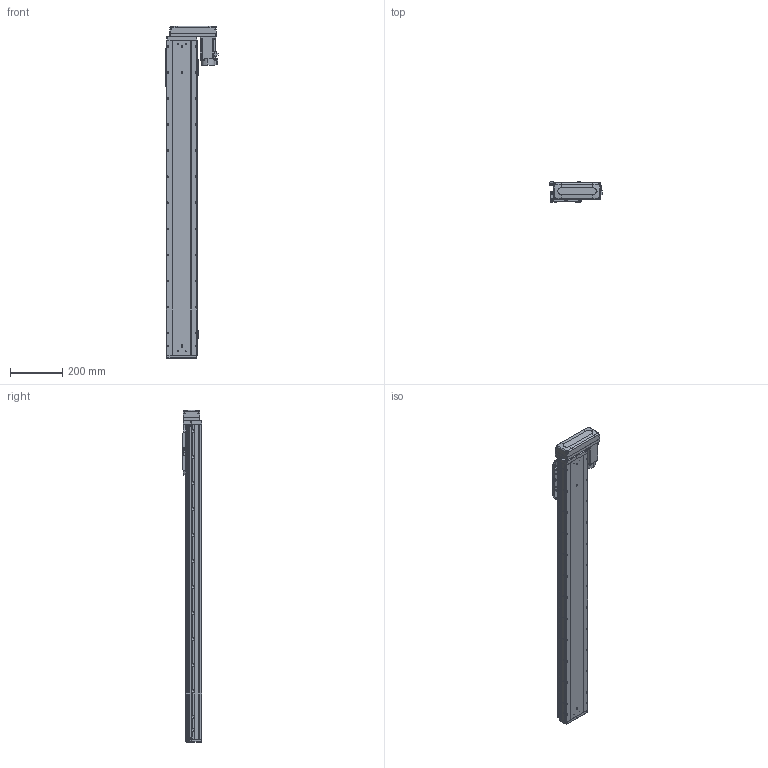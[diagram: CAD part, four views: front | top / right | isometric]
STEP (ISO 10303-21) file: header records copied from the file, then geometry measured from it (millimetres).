
FILE_DESCRIPTION (( 'STEP AP203' ), '1' );
FILE_NAME ('GTH12-1000-BL-M40-C4.step', '2023-07-04T10:39:19', ( '微软用户' ), ( '微软中国' ), 'SwSTEP 2.0', 'SolidWorks 2020', '' );
FILE_SCHEMA (( 'CONFIG_CONTROL_DESIGN' ));
Length unit declared in the file: millimetre
Products named in the file (18): GTH50-024; GBT 70.1-M3℅6; GBT96.1-2002 3×0.8; GBT 70.1-M5×16; BTH-M3X5X6; GTH120-001_1000; GBT 70.3-M3℅8; hg-kn43j_-s100_; GTH120-003; GTH80-022; CTHA86-033_M40B; GTH120-006; GTH80-028; GTH120-027-1_GTH120-027-2; GTH120-004; GTH50-023; GTH12-1000-BL-M40-C4; GTH120-013
Assembly tree (59 placements, depth 2):
  GTH12-1000-BL-M40-C4
    GTH120-001_1000
    GTH120-003
    GTH120-006
    GTH120-004
    GTH120-013
    GBT 70.1-M3℅6  x14
    GBT 70.1-M5×16  x10
    GBT 70.3-M3℅8  x4
    GTH80-022
    GTH80-028  x2
    GTH50-023  x3
    GTH50-024  x3
    GBT96.1-2002 3×0.8  x6
    BTH-M3X5X6  x8
    hg-kn43j_-s100_
    CTHA86-033_M40B
    GTH120-027-1_GTH120-027-2
Bounding box: 199.8 x 76 x 1275.5 mm (x, y, z)
Volume: 9166890.9 mm3; surface area: 787082.8 mm2
Topology: 61 solids, 61 shells, 2543 faces, 5960 edges, 3659 vertices
Faces by surface type: plane 1294, cylinder 753, cone 308, torus 174, sphere 8, bspline 6
Entity records: 48682 total; most frequent: CARTESIAN_POINT 8248, DIRECTION 8100, ORIENTED_EDGE 7530, EDGE_CURVE 3765, AXIS2_PLACEMENT_3D 2832, VECTOR 2436, LINE 2436, VERTEX_POINT 2380
